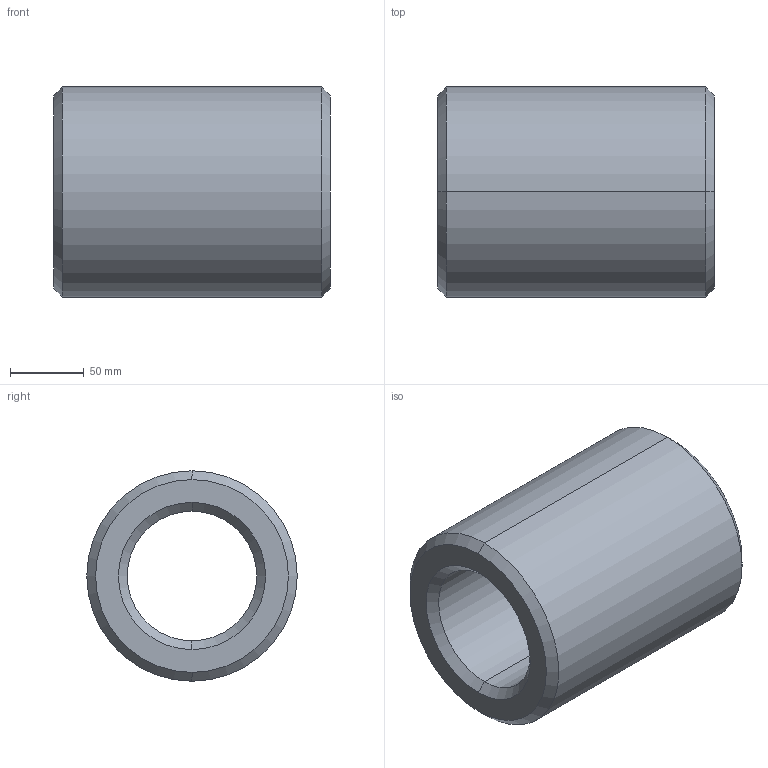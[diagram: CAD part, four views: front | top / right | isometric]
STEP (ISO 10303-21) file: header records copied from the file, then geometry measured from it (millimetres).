
FILE_DESCRIPTION (( 'STEP AP203' ), '1' );
FILE_NAME ('Muffe M90.STEP', '2018-02-22T09:29:52', ( 'install' ), ( 'Hewlett-Packard Company' ), 'SwSTEP 2.0', 'SolidWorks 2017', '' );
FILE_SCHEMA (( 'CONFIG_CONTROL_DESIGN' ));
Length unit declared in the file: millimetre
Products named in the file (1): Muffe M90
Bounding box: 188 x 143 x 143 mm (x, y, z)
Volume: 1849829.4 mm3; surface area: 151288.7 mm2
Topology: 1 solids, 1 shells, 14 faces, 28 edges, 16 vertices
Faces by surface type: cone 8, cylinder 4, plane 2
Entity records: 445 total; most frequent: DIRECTION 74, CARTESIAN_POINT 59, ORIENTED_EDGE 56, AXIS2_PLACEMENT_3D 31, EDGE_CURVE 28, EDGE_LOOP 16, VERTEX_POINT 16, CIRCLE 16
